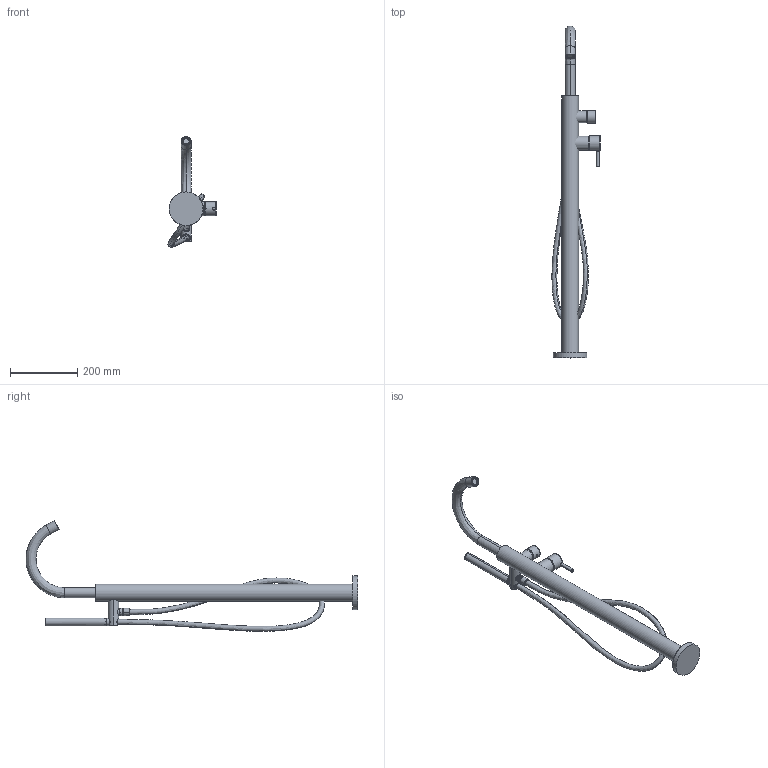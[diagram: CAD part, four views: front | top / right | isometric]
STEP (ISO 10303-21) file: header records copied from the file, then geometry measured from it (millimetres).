
FILE_DESCRIPTION(('STEP AP214'),'2;1');
FILE_NAME('DIS_3D_E880B_R080A.stp','2021-12-06T11:11:29',(''),(''),'2015.2.119','THINKDESIGN','');
FILE_SCHEMA(('AUTOMOTIVE_DESIGN'));
Length unit declared in the file: millimetre
Products named in the file (1): top
Bounding box: 142.81 x 985.56 x 328.81 mm (x, y, z)
Volume: 2208300.3 mm3; surface area: 375781.1 mm2
Topology: 23 solids, 23 shells, 1104 faces, 2673 edges, 1672 vertices
Faces by surface type: bspline 564, cylinder 307, plane 233
Full cylindrical faces by diameter (mm): 34.8 x1, 37 x1, 41 x1, 42.5 x1, 50 x1, 100 x1
Entity records: 99778 total; most frequent: CARTESIAN_POINT 56946, ORIENTED_EDGE 5278, DIRECTION 3842, EDGE_CURVE 2639, STYLED_ITEM 2231, PRESENTATION_STYLE_ASSIGNMENT 2213, SURFACE_STYLE_USAGE 2213, SURFACE_SIDE_STYLE 2213
